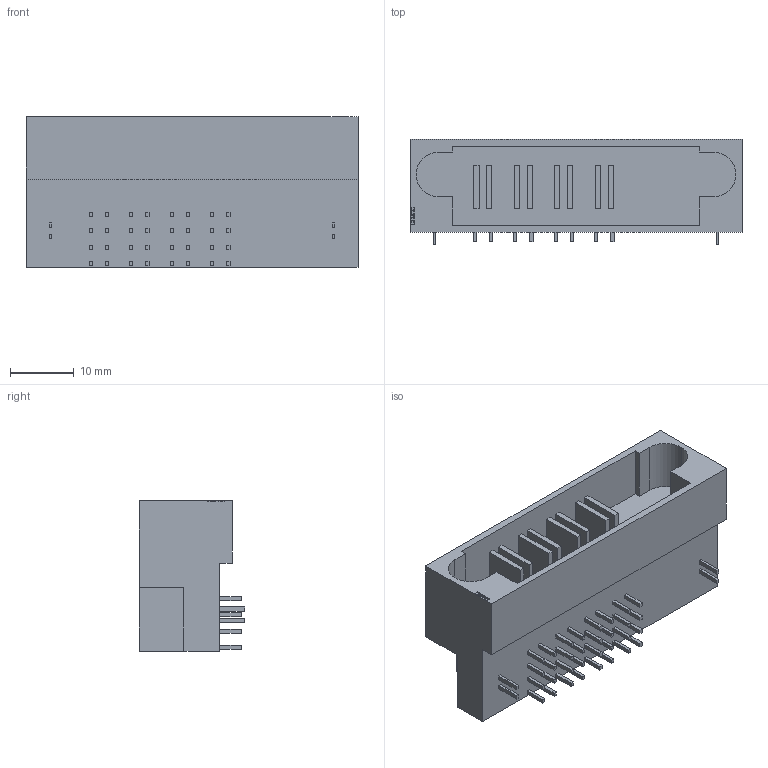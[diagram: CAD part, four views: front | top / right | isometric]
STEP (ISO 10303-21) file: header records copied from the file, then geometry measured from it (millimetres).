
FILE_DESCRIPTION (( 'STEP AP214' ), '1' );
FILE_NAME ('9391-A1P04S16CB30DLA.STEP', '2019-07-15T12:39:32', ( '' ), ( '' ), 'SwSTEP 2.0', 'SolidWorks 2011', '' );
FILE_SCHEMA (( 'AUTOMOTIVE_DESIGN' ));
Length unit declared in the file: millimetre
Products named in the file (1): 9391-A1P04S16CB30DLA
Bounding box: 52.09 x 16.53 x 23.62 mm (x, y, z)
Volume: 11410.9 mm3; surface area: 6906.4 mm2
Topology: 1 solids, 5 shells, 429 faces, 1100 edges, 730 vertices
Faces by surface type: plane 349, cylinder 80
Entity records: 15380 total; most frequent: CARTESIAN_POINT 2284, ORIENTED_EDGE 2200, DIRECTION 2104, EDGE_CURVE 1100, LINE 940, VECTOR 940, VERTEX_POINT 730, AXIS2_PLACEMENT_3D 582
